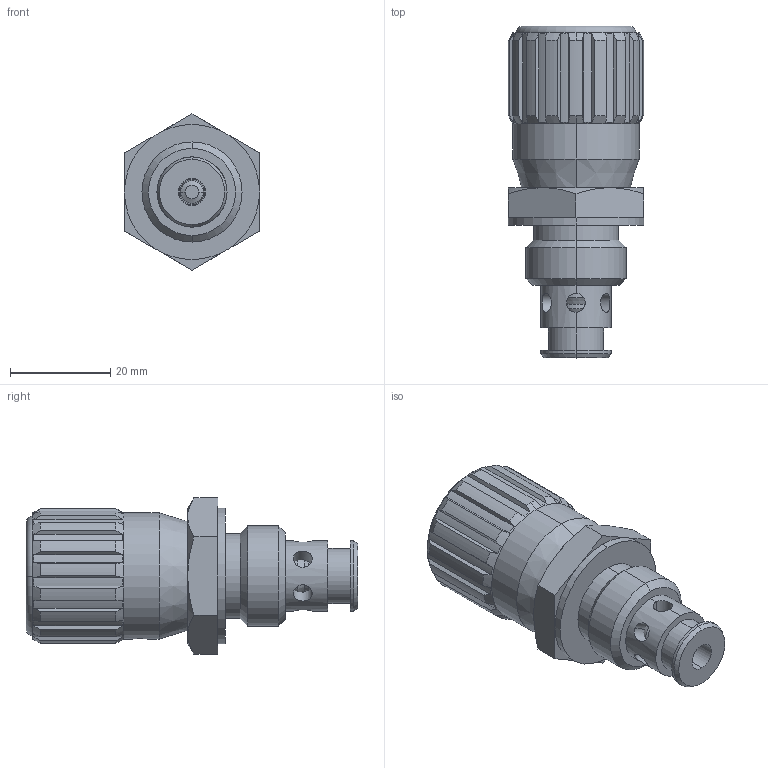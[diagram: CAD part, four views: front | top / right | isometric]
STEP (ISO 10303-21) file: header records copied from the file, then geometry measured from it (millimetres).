
FILE_DESCRIPTION (( 'STEP AP214' ), '1' );
FILE_NAME ('Assieme 2267-2-manopola.STEP', '2014-06-12T09:43:17', ( '' ), ( '' ), 'SwSTEP 2.0', 'SolidWorks 2014', '' );
FILE_SCHEMA (( 'AUTOMOTIVE_DESIGN' ));
Length unit declared in the file: millimetre
Products named in the file (8): CappuccioFT257_2-14_Tipo14; 2257-2-006-00-1-1-14; 2257-2-003-00-1-1-14; 257-2-005-00-1-0-14; 257-1-004-00-0-1-14; 2267-2-002-00-1-1-14; 2267-2-101-00-0-1-14-B; Assieme 2267-2-manopola
Assembly tree (7 placements, depth 2):
  Assieme 2267-2-manopola
    2267-2-101-00-0-1-14-B
    2267-2-002-00-1-1-14
    257-1-004-00-0-1-14
    257-2-005-00-1-0-14
    2257-2-003-00-1-1-14
    2257-2-006-00-1-1-14
    CappuccioFT257_2-14_Tipo14
Bounding box: 27 x 66.3 x 31.18 mm (x, y, z)
Volume: 22047.2 mm3; surface area: 15526.2 mm2
Topology: 7 solids, 7 shells, 436 faces, 1079 edges, 682 vertices
Faces by surface type: plane 198, cylinder 140, cone 65, torus 20, bspline 9, sphere 4
Entity records: 15772 total; most frequent: CARTESIAN_POINT 3836, DIRECTION 2158, ORIENTED_EDGE 2154, EDGE_CURVE 1077, AXIS2_PLACEMENT_3D 804, VERTEX_POINT 682, LINE 550, VECTOR 550
